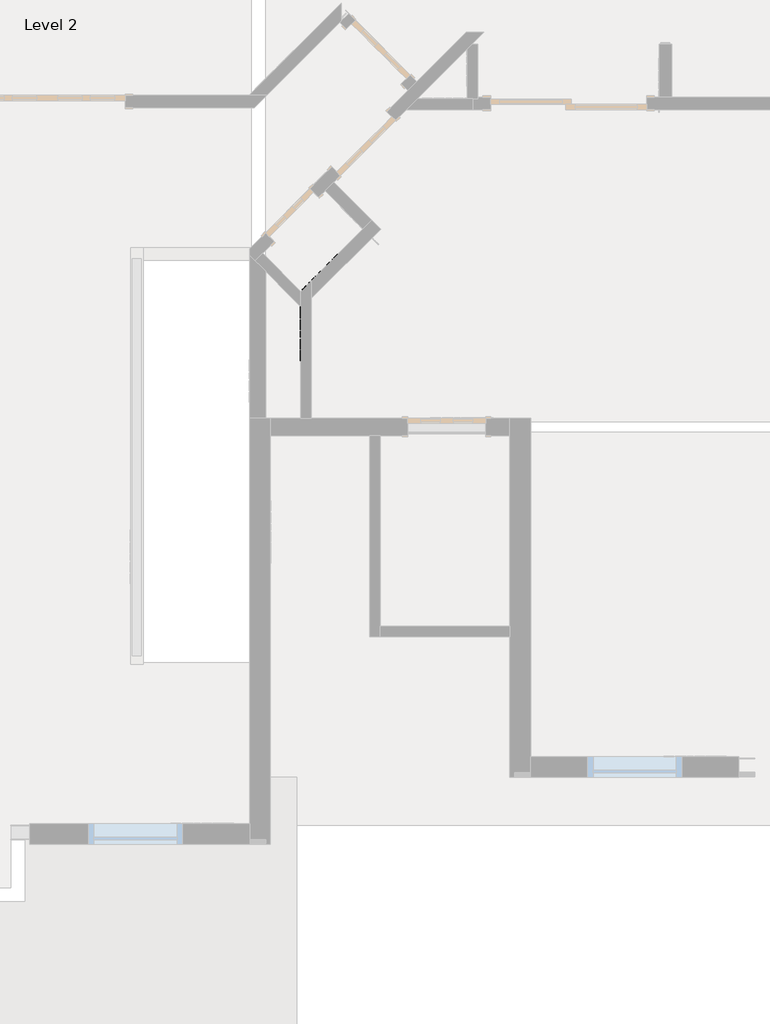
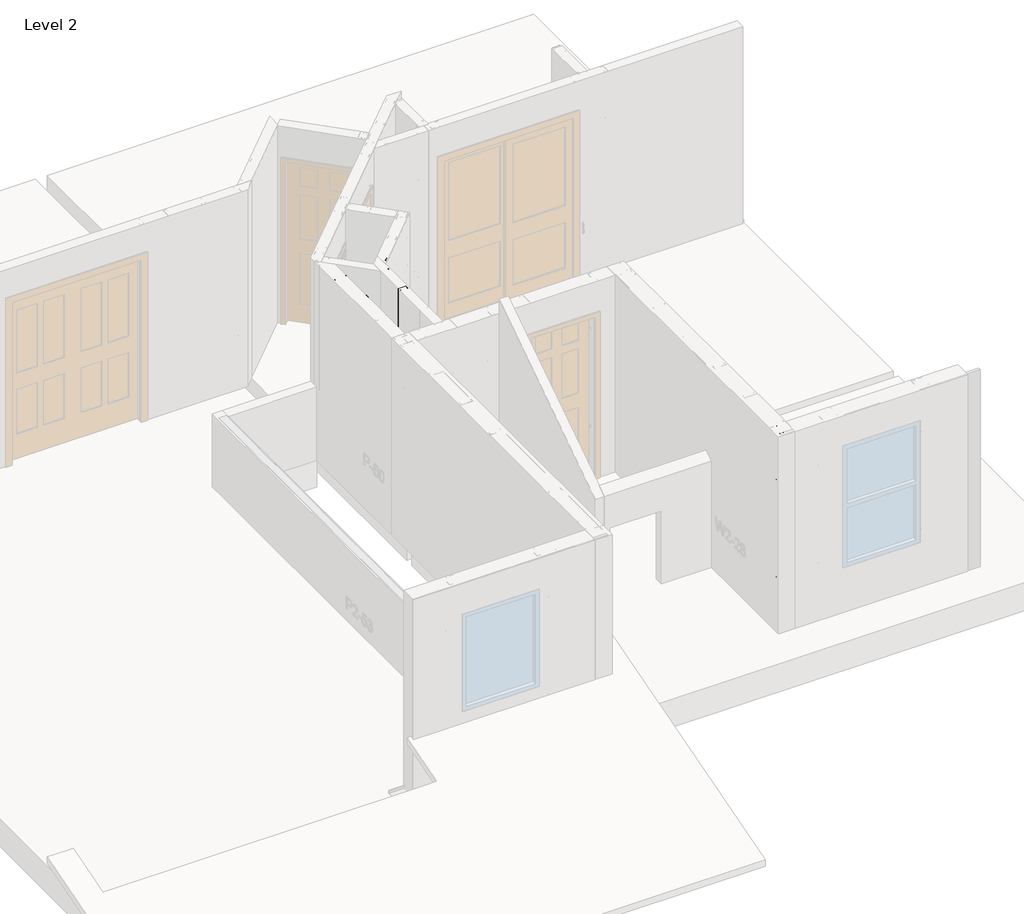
# One storey, part 18 of 46: 6 columns, 2 fasteners, 1 beam.
"""IFC4 building model written with IfcOpenShell, lengths in millimetres."""

from ifc_helpers import new_model, si_unit, point, frame, origin, place, context, project, spatial, circle_curve, ellipse_curve, trimmed, transform, mapped, element, save
from ifc_brep_helpers import plane_surface, extruded_surface, advanced_brep
from components import beam_350nf150_33_eeb0c6a2, panellabel_10638fd7, panellabel_e923d0c2

model = new_model("IFC4")

# Units and contexts
model_context = context("Model", 3, world=origin())
ifc_project = project(units=[si_unit("LENGTHUNIT", "METRE", prefix="MILLI")], contexts=[model_context])

# Site, building, storey
site = spatial("IfcSite", under=ifc_project)
building = spatial("IfcBuilding", under=site)
storey = spatial("IfcBuildingStorey", under=building, Name="Level 2", Elevation=3060.7)

# Beam
placement = place(None, origin())
beam_350nf150_33_shape = beam_350nf150_33_eeb0c6a2(model_context)
element("IfcBeam", 1, ObjectType="BIMSF-SSMA-S : 350NF150-33", at=placement, inside=storey, context=model_context, shape_type="MappedRepresentation", body=[
    mapped(beam_350nf150_33_shape, transform((-8576.5652285, 7078.7104904, 3076.575), x_axis=(0.0, -1.0000000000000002, 0.0), y_axis=(0.0, 0.0, -1.0000000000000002), z_axis=(1.0000000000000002, 0.0, 0.0))),
])

# Columns
element("IfcColumn", 2, ObjectType="BIMSF-SSMA-S-Column : 350NF150-33", at=placement, inside=storey, context=model_context, shape_type="AdvancedBrep", body=[
    advanced_brep(
    [(-8621.0152285, 7658.0687599, 3061.5929687), (-8532.1152285, 7658.0687599, 3061.5929687), (-8532.1152285, 7619.9687599, 3061.5929687), (-8537.7727442, 7619.9687599, 3061.5929687), (-8537.7727442, 7620.8510757, 3061.5929687), (-8532.9975442, 7620.8510757, 3061.5929687), (-8532.9975442, 7657.1864441, 3061.5929687), (-8620.1329127, 7657.1864441, 3061.5929687), (-8620.1329127, 7620.8510757, 3061.5929687), (-8615.3577127, 7620.8510757, 3061.5929687), (-8615.3577127, 7619.9687599, 3061.5929687), (-8621.0152285, 7619.9687599, 3061.5929687), (-8621.0152285, 7658.0687599, 5523.6070313), (-8532.1152285, 7658.0687599, 5523.6070313), (-8563.8652285, 7658.0687599, 3671.1929688), (-8589.2652285, 7658.0687599, 3671.1929688), (-8563.8652285, 7658.0687599, 4890.3929687), (-8589.2652285, 7658.0687599, 4890.3929687), (-8532.1152285, 7619.9687599, 5523.6070313), (-8537.7727442, 7619.9687599, 5523.6070313), (-8537.7727442, 7620.8510757, 5523.6070313), (-8532.9975442, 7620.8510757, 5523.6070313), (-8532.9975442, 7657.1864441, 5523.6070313), (-8620.1329127, 7657.1864441, 5523.6070313), (-8589.2652285, 7657.1864441, 3671.1929688), (-8563.8652285, 7657.1864441, 3671.1929688), (-8589.2652285, 7657.1864441, 4890.3929687), (-8563.8652285, 7657.1864441, 4890.3929687), (-8620.1329127, 7620.8510757, 5523.6070313), (-8615.3577127, 7620.8510757, 5523.6070313), (-8615.3577127, 7619.9687599, 5523.6070313), (-8621.0152285, 7619.9687599, 5523.6070313)],
    [
        (0, 1),
        (1, 2),
        (2, 3),
        (3, 4),
        (4, 5),
        (5, 6),
        (6, 7),
        (7, 8),
        (8, 9),
        (9, 10),
        (10, 11),
        (11, 0),
        (0, 12),
        (12, 13),
        (13, 1),
        (14, 15, circle_curve(frame((-8576.5652285, 7658.0687599, 3671.1929688), z_axis=(0.0, -1.0, 0.0), x_axis=(1.0, 0.0, 0.0)), 12.7)),
        (15, 14, circle_curve(frame((-8576.5652285, 7658.0687599, 3671.1929687), z_axis=(0.0, -1.0, 0.0), x_axis=(1.0, 0.0, 0.0)), 12.7)),
        (16, 17, circle_curve(frame((-8576.5652285, 7658.0687599, 4890.3929687), z_axis=(0.0, -1.0, 0.0), x_axis=(1.0, 0.0, 0.0)), 12.7)),
        (17, 16, circle_curve(frame((-8576.5652285, 7658.0687599, 4890.3929687), z_axis=(0.0, -1.0, 0.0), x_axis=(1.0, 0.0, 0.0)), 12.7)),
        (13, 18),
        (18, 2),
        (18, 19),
        (19, 3),
        (19, 20),
        (20, 4),
        (20, 21),
        (21, 5),
        (21, 22),
        (22, 6),
        (22, 23),
        (23, 7),
        (24, 25, circle_curve(frame((-8576.5652285, 7657.1864441, 3671.1929688), z_axis=(0.0, 1.0, 0.0), x_axis=(1.0, 0.0, 0.0)), 12.7)),
        (25, 24, circle_curve(frame((-8576.5652285, 7657.1864441, 3671.1929688), z_axis=(0.0, 1.0, 0.0), x_axis=(1.0, 0.0, 0.0)), 12.7)),
        (26, 27, circle_curve(frame((-8576.5652285, 7657.1864441, 4890.3929687), z_axis=(0.0, 1.0, 0.0), x_axis=(1.0, 0.0, 0.0)), 12.7)),
        (27, 26, circle_curve(frame((-8576.5652285, 7657.1864441, 4890.3929687), z_axis=(0.0, 1.0, 0.0), x_axis=(1.0, 0.0, 0.0)), 12.7)),
        (23, 28),
        (28, 8),
        (28, 29),
        (29, 9),
        (29, 30),
        (30, 10),
        (30, 31),
        (31, 11),
        (31, 12),
        (24, 15),
        (14, 25),
        (26, 17),
        (16, 27),
    ],
    [
        plane_surface(frame((-8621.0152285, 7658.0687599, 3061.5929687), z_axis=(0.0, 0.0, -1.0), x_axis=(0.0, 1.0, 0.0))),
        plane_surface(frame((-8532.1152285, 7658.0687599, 5523.6070313), z_axis=(0.0, 1.0, 0.0), x_axis=(0.0, 0.0, -1.0))),
        plane_surface(frame((-8532.1152285, 7619.9687599, 5523.6070313), z_axis=(1.0, 0.0, 0.0), x_axis=(0.0, 0.0, -1.0))),
        plane_surface(frame((-8537.7727442, 7619.9687599, 5523.6070313), z_axis=(0.0, -1.0, 0.0), x_axis=(0.0, 0.0, -1.0))),
        plane_surface(frame((-8537.7727442, 7620.8510757, 5523.6070313), z_axis=(-1.0, 0.0, 0.0), x_axis=(0.0, 0.0, -1.0))),
        plane_surface(frame((-8532.9975442, 7620.8510757, 5523.6070313), z_axis=(0.0, 1.0, 0.0), x_axis=(0.0, 0.0, -1.0))),
        plane_surface(frame((-8532.9975442, 7657.1864441, 5523.6070313), z_axis=(-1.0, 0.0, 0.0), x_axis=(0.0, 0.0, -1.0))),
        plane_surface(frame((-8620.1329127, 7657.1864441, 5523.6070313), z_axis=(0.0, -1.0, 0.0), x_axis=(0.0, 0.0, -1.0))),
        plane_surface(frame((-8620.1329127, 7620.8510757, 5523.6070313), z_axis=(1.0, 0.0, 0.0), x_axis=(0.0, 0.0, -1.0))),
        plane_surface(frame((-8615.3577127, 7620.8510757, 5523.6070313), z_axis=(0.0, 1.0, 0.0), x_axis=(0.0, 0.0, -1.0))),
        plane_surface(frame((-8615.3577127, 7619.9687599, 5523.6070313), z_axis=(1.0, 0.0, 0.0), x_axis=(0.0, 0.0, -1.0))),
        plane_surface(frame((-8621.0152285, 7619.9687599, 5523.6070313), z_axis=(0.0, -1.0, 0.0), x_axis=(0.0, 0.0, -1.0))),
        plane_surface(frame((-8621.0152285, 7658.0687599, 5523.6070313), z_axis=(-1.0, 0.0, 0.0), x_axis=(0.0, 0.0, -1.0))),
        plane_surface(frame((-8621.0152285, 7658.0687599, 5523.6070313), z_axis=(0.0, 0.0, 1.0), x_axis=(0.0, -1.0, 0.0))),
        extruded_surface(trimmed(ellipse_curve(frame((-8576.5652285, 5177.0046974, 3671.1929688), z_axis=(0.0, 1.0, 0.0), x_axis=(1.0, 0.0, 0.0)), 12.7, 12.7), [point((-8589.2652285, 5177.0046974, 3671.1929688))], [point((-8563.8652285, 5177.0046974, 3671.1929688))], True, "CARTESIAN"), (0.0, -4924.028125, 0.0), 4924.028125),
        extruded_surface(trimmed(ellipse_curve(frame((-8576.5652285, 5177.0046974, 3671.1929688), z_axis=(0.0, 1.0, 0.0), x_axis=(1.0, 0.0, 0.0)), 12.7, 12.7), [point((-8563.8652285, 5177.0046974, 3671.1929688))], [point((-8589.2652285, 5177.0046974, 3671.1929688))], True, "CARTESIAN"), (0.0, -4924.028125, 0.0), 4924.028125),
        extruded_surface(trimmed(ellipse_curve(frame((-8576.5652285, 5177.0046974, 4890.3929687), z_axis=(0.0, 1.0, 0.0), x_axis=(1.0, 0.0, 0.0)), 12.7, 12.7), [point((-8589.2652285, 5177.0046974, 4890.3929687))], [point((-8563.8652285, 5177.0046974, 4890.3929687))], True, "CARTESIAN"), (0.0, -4924.028125, 0.0), 4924.028125),
        extruded_surface(trimmed(ellipse_curve(frame((-8576.5652285, 5177.0046974, 4890.3929687), z_axis=(0.0, 1.0, 0.0), x_axis=(1.0, 0.0, 0.0)), 12.7, 12.7), [point((-8563.8652285, 5177.0046974, 4890.3929687))], [point((-8589.2652285, 5177.0046974, 4890.3929687))], True, "CARTESIAN"), (0.0, -4924.028125, 0.0), 4924.028125),
    ],
    [
        (0, [[1, 2, 3, 4, 5, 6, 7, 8, 9, 10, 11, 12]]),
        (1, [[-1, 13, 14, 15], [16, 17], [18, 19]]),
        (2, [[-2, -15, 20, 21]]),
        (3, [[-3, -21, 22, 23]]),
        (4, [[-4, -23, 24, 25]]),
        (5, [[-5, -25, 26, 27]]),
        (6, [[-6, -27, 28, 29]]),
        (7, [[-7, -29, 30, 31], [32, 33], [34, 35]]),
        (8, [[-8, -31, 36, 37]]),
        (9, [[-9, -37, 38, 39]]),
        (10, [[-10, -39, 40, 41]]),
        (11, [[-11, -41, 42, 43]]),
        (12, [[-12, -43, 44, -13]]),
        (13, [[-14, -44, -42, -40, -38, -36, -30, -28, -26, -24, -22, -20]]),
        (14, [[45, -16, 46, -32]]),
        (15, [[-45, -33, -46, -17]]),
        (16, [[47, -18, 48, -34]]),
        (17, [[-47, -35, -48, -19]]),
    ],
),
])
element("IfcColumn", 3, ObjectType="BIMSF-SSMA-S-Column : 350NF150-33", at=placement, inside=storey, context=model_context, shape_type="AdvancedBrep", body=[
    advanced_brep(
    [(-8621.0152285, 7270.7187599, 3061.5929687), (-8532.1152285, 7270.7187599, 3061.5929687), (-8532.1152285, 7232.6187599, 3061.5929687), (-8537.7727442, 7232.6187599, 3061.5929687), (-8537.7727442, 7233.5010757, 3061.5929687), (-8532.9975442, 7233.5010757, 3061.5929687), (-8532.9975442, 7269.8364441, 3061.5929687), (-8620.1329127, 7269.8364441, 3061.5929687), (-8620.1329127, 7233.5010757, 3061.5929687), (-8615.3577127, 7233.5010757, 3061.5929687), (-8615.3577127, 7232.6187599, 3061.5929687), (-8621.0152285, 7232.6187599, 3061.5929687), (-8621.0152285, 7270.7187599, 5523.6070313), (-8532.1152285, 7270.7187599, 5523.6070313), (-8563.8652285, 7270.7187599, 3671.1929688), (-8589.2652285, 7270.7187599, 3671.1929687), (-8563.8652285, 7270.7187599, 4890.3929687), (-8589.2652285, 7270.7187599, 4890.3929687), (-8532.1152285, 7232.6187599, 5523.6070313), (-8537.7727442, 7232.6187599, 5523.6070313), (-8537.7727442, 7233.5010757, 5523.6070313), (-8532.9975442, 7233.5010757, 5523.6070313), (-8532.9975442, 7269.8364441, 5523.6070313), (-8620.1329127, 7269.8364441, 5523.6070313), (-8589.2652285, 7269.8364441, 3671.1929688), (-8563.8652285, 7269.8364441, 3671.1929688), (-8589.2652285, 7269.8364441, 4890.3929687), (-8563.8652285, 7269.8364441, 4890.3929687), (-8620.1329127, 7233.5010757, 5523.6070313), (-8615.3577127, 7233.5010757, 5523.6070313), (-8615.3577127, 7232.6187599, 5523.6070313), (-8621.0152285, 7232.6187599, 5523.6070313)],
    [
        (0, 1),
        (1, 2),
        (2, 3),
        (3, 4),
        (4, 5),
        (5, 6),
        (6, 7),
        (7, 8),
        (8, 9),
        (9, 10),
        (10, 11),
        (11, 0),
        (0, 12),
        (12, 13),
        (13, 1),
        (14, 15, circle_curve(frame((-8576.5652285, 7270.7187599, 3671.1929687), z_axis=(0.0, -1.0, 0.0), x_axis=(1.0, 0.0, 0.0)), 12.7)),
        (15, 14, circle_curve(frame((-8576.5652285, 7270.7187599, 3671.1929687), z_axis=(0.0, -1.0, 0.0), x_axis=(1.0, 0.0, 0.0)), 12.7)),
        (16, 17, circle_curve(frame((-8576.5652285, 7270.7187599, 4890.3929687), z_axis=(0.0, -1.0, 0.0), x_axis=(1.0, 0.0, 0.0)), 12.7)),
        (17, 16, circle_curve(frame((-8576.5652285, 7270.7187599, 4890.3929687), z_axis=(0.0, -1.0, 0.0), x_axis=(1.0, 0.0, 0.0)), 12.7)),
        (13, 18),
        (18, 2),
        (18, 19),
        (19, 3),
        (19, 20),
        (20, 4),
        (20, 21),
        (21, 5),
        (21, 22),
        (22, 6),
        (22, 23),
        (23, 7),
        (24, 25, circle_curve(frame((-8576.5652285, 7269.8364441, 3671.1929687), z_axis=(0.0, 1.0, 0.0), x_axis=(1.0, 0.0, 0.0)), 12.7)),
        (25, 24, circle_curve(frame((-8576.5652285, 7269.8364441, 3671.1929687), z_axis=(0.0, 1.0, 0.0), x_axis=(1.0, 0.0, 0.0)), 12.7)),
        (26, 27, circle_curve(frame((-8576.5652285, 7269.8364441, 4890.3929687), z_axis=(0.0, 1.0, 0.0), x_axis=(1.0, 0.0, 0.0)), 12.7)),
        (27, 26, circle_curve(frame((-8576.5652285, 7269.8364441, 4890.3929687), z_axis=(0.0, 1.0, 0.0), x_axis=(1.0, 0.0, 0.0)), 12.7)),
        (23, 28),
        (28, 8),
        (28, 29),
        (29, 9),
        (29, 30),
        (30, 10),
        (30, 31),
        (31, 11),
        (31, 12),
        (24, 15),
        (14, 25),
        (26, 17),
        (16, 27),
    ],
    [
        plane_surface(frame((-8621.0152285, 7270.7187599, 3061.5929687), z_axis=(0.0, 0.0, -1.0), x_axis=(0.0, 1.0, 0.0))),
        plane_surface(frame((-8532.1152285, 7270.7187599, 5523.6070313), z_axis=(0.0, 1.0, 0.0), x_axis=(0.0, 0.0, -1.0))),
        plane_surface(frame((-8532.1152285, 7232.6187599, 5523.6070313), z_axis=(1.0, 0.0, 0.0), x_axis=(0.0, 0.0, -1.0))),
        plane_surface(frame((-8537.7727442, 7232.6187599, 5523.6070313), z_axis=(0.0, -1.0, 0.0), x_axis=(0.0, 0.0, -1.0))),
        plane_surface(frame((-8537.7727442, 7233.5010757, 5523.6070313), z_axis=(-1.0, 0.0, 0.0), x_axis=(0.0, 0.0, -1.0))),
        plane_surface(frame((-8532.9975442, 7233.5010757, 5523.6070313), z_axis=(0.0, 1.0, 0.0), x_axis=(0.0, 0.0, -1.0))),
        plane_surface(frame((-8532.9975442, 7269.8364441, 5523.6070313), z_axis=(-1.0, 0.0, 0.0), x_axis=(0.0, 0.0, -1.0))),
        plane_surface(frame((-8620.1329127, 7269.8364441, 5523.6070313), z_axis=(0.0, -1.0, 0.0), x_axis=(0.0, 0.0, -1.0))),
        plane_surface(frame((-8620.1329127, 7233.5010757, 5523.6070313), z_axis=(1.0, 0.0, 0.0), x_axis=(0.0, 0.0, -1.0))),
        plane_surface(frame((-8615.3577127, 7233.5010757, 5523.6070313), z_axis=(0.0, 1.0, 0.0), x_axis=(0.0, 0.0, -1.0))),
        plane_surface(frame((-8615.3577127, 7232.6187599, 5523.6070313), z_axis=(1.0, 0.0, 0.0), x_axis=(0.0, 0.0, -1.0))),
        plane_surface(frame((-8621.0152285, 7232.6187599, 5523.6070313), z_axis=(0.0, -1.0, 0.0), x_axis=(0.0, 0.0, -1.0))),
        plane_surface(frame((-8621.0152285, 7270.7187599, 5523.6070313), z_axis=(-1.0, 0.0, 0.0), x_axis=(0.0, 0.0, -1.0))),
        plane_surface(frame((-8621.0152285, 7270.7187599, 5523.6070313), z_axis=(0.0, 0.0, 1.0), x_axis=(0.0, -1.0, 0.0))),
        extruded_surface(trimmed(ellipse_curve(frame((-8576.5652285, 4789.6546974, 3671.1929688), z_axis=(0.0, 1.0, 0.0), x_axis=(1.0, 0.0, 0.0)), 12.7, 12.7), [point((-8589.2652285, 4789.6546974, 3671.1929688))], [point((-8563.8652285, 4789.6546974, 3671.1929688))], True, "CARTESIAN"), (0.0, -4924.028125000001, 0.0), 4924.028125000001),
        extruded_surface(trimmed(ellipse_curve(frame((-8576.5652285, 4789.6546974, 3671.1929688), z_axis=(0.0, 1.0, 0.0), x_axis=(1.0, 0.0, 0.0)), 12.7, 12.7), [point((-8563.8652285, 4789.6546974, 3671.1929688))], [point((-8589.2652285, 4789.6546974, 3671.1929688))], True, "CARTESIAN"), (0.0, -4924.028125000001, 0.0), 4924.028125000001),
        extruded_surface(trimmed(ellipse_curve(frame((-8576.5652285, 4789.6546974, 4890.3929687), z_axis=(0.0, 1.0, 0.0), x_axis=(1.0, 0.0, 0.0)), 12.7, 12.7), [point((-8589.2652285, 4789.6546974, 4890.3929687))], [point((-8563.8652285, 4789.6546974, 4890.3929687))], True, "CARTESIAN"), (0.0, -4924.028125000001, 0.0), 4924.028125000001),
        extruded_surface(trimmed(ellipse_curve(frame((-8576.5652285, 4789.6546974, 4890.3929687), z_axis=(0.0, 1.0, 0.0), x_axis=(1.0, 0.0, 0.0)), 12.7, 12.7), [point((-8563.8652285, 4789.6546974, 4890.3929687))], [point((-8589.2652285, 4789.6546974, 4890.3929687))], True, "CARTESIAN"), (0.0, -4924.028125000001, 0.0), 4924.028125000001),
    ],
    [
        (0, [[1, 2, 3, 4, 5, 6, 7, 8, 9, 10, 11, 12]]),
        (1, [[-1, 13, 14, 15], [16, 17], [18, 19]]),
        (2, [[-2, -15, 20, 21]]),
        (3, [[-3, -21, 22, 23]]),
        (4, [[-4, -23, 24, 25]]),
        (5, [[-5, -25, 26, 27]]),
        (6, [[-6, -27, 28, 29]]),
        (7, [[-7, -29, 30, 31], [32, 33], [34, 35]]),
        (8, [[-8, -31, 36, 37]]),
        (9, [[-9, -37, 38, 39]]),
        (10, [[-10, -39, 40, 41]]),
        (11, [[-11, -41, 42, 43]]),
        (12, [[-12, -43, 44, -13]]),
        (13, [[-14, -44, -42, -40, -38, -36, -30, -28, -26, -24, -22, -20]]),
        (14, [[45, -16, 46, -32]]),
        (15, [[-45, -33, -46, -17]]),
        (16, [[47, -18, 48, -34]]),
        (17, [[-47, -35, -48, -19]]),
    ],
),
])
element("IfcColumn", 4, ObjectType="BIMSF-SSMA-S-Column : 350NF150-33", at=placement, inside=storey, context=model_context, shape_type="AdvancedBrep", body=[
    advanced_brep(
    [(-8477.1413692, 7771.6245763, 3061.5929687), (-8540.0031621, 7834.4863691, 3061.5929687), (-8513.0623937, 7861.4271375, 3061.5929687), (-8509.0619259, 7857.4266697, 3061.5929687), (-8509.6858174, 7856.8027782, 3061.5929687), (-8513.0623937, 7860.1793546, 3061.5929687), (-8538.7553791, 7834.4863691, 3061.5929687), (-8477.1413692, 7772.8723592, 3061.5929687), (-8451.4483838, 7798.5653447, 3061.5929687), (-8454.8249601, 7801.941921, 3061.5929687), (-8454.2010686, 7802.5658124, 3061.5929687), (-8450.2006009, 7798.5653447, 3061.5929687), (-8477.1413692, 7771.6245763, 5523.6070313), (-8540.0031621, 7834.4863691, 5523.6070313), (-8517.5525218, 7812.0357288, 3671.1929688), (-8499.5920095, 7794.0752166, 3671.1929688), (-8517.5525218, 7812.0357288, 4890.3929688), (-8499.5920095, 7794.0752166, 4890.3929687), (-8513.0623937, 7861.4271375, 5523.6070313), (-8509.0619259, 7857.4266697, 5523.6070313), (-8509.6858174, 7856.8027782, 5523.6070313), (-8513.0623937, 7860.1793546, 5523.6070313), (-8538.7553791, 7834.4863691, 5523.6070313), (-8477.1413692, 7772.8723592, 5523.6070313), (-8498.968118, 7794.6991081, 3671.1929688), (-8516.9286303, 7812.6596203, 3671.1929688), (-8498.968118, 7794.6991081, 4890.3929687), (-8516.9286303, 7812.6596203, 4890.3929688), (-8451.4483838, 7798.5653447, 5523.6070313), (-8454.8249601, 7801.941921, 5523.6070313), (-8454.2010686, 7802.5658124, 5523.6070313), (-8450.2006009, 7798.5653447, 5523.6070313)],
    [
        (0, 1),
        (1, 2),
        (2, 3),
        (3, 4),
        (4, 5),
        (5, 6),
        (6, 7),
        (7, 8),
        (8, 9),
        (9, 10),
        (10, 11),
        (11, 0),
        (0, 12),
        (12, 13),
        (13, 1),
        (14, 15, circle_curve(frame((-8508.5722656, 7803.0554727, 3671.1929688), z_axis=(0.7071067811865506, 0.7071067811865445, 0.0), x_axis=(-0.7071067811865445, 0.7071067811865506, 0.0)), 12.7)),
        (15, 14, circle_curve(frame((-8508.5722656, 7803.0554727, 3671.1929688), z_axis=(0.7071067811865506, 0.7071067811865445, 0.0), x_axis=(-0.7071067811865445, 0.7071067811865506, 0.0)), 12.7)),
        (16, 17, circle_curve(frame((-8508.5722656, 7803.0554727, 4890.3929688), z_axis=(0.7071067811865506, 0.7071067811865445, 0.0), x_axis=(-0.7071067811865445, 0.7071067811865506, 0.0)), 12.7)),
        (17, 16, circle_curve(frame((-8508.5722656, 7803.0554727, 4890.3929687), z_axis=(0.7071067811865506, 0.7071067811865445, 0.0), x_axis=(-0.7071067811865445, 0.7071067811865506, 0.0)), 12.7)),
        (13, 18),
        (18, 2),
        (18, 19),
        (19, 3),
        (19, 20),
        (20, 4),
        (20, 21),
        (21, 5),
        (21, 22),
        (22, 6),
        (22, 23),
        (23, 7),
        (24, 25, circle_curve(frame((-8507.9483742, 7803.6793642, 3671.1929688), z_axis=(-0.7071067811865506, -0.7071067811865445, 0.0), x_axis=(-0.7071067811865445, 0.7071067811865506, 0.0)), 12.7)),
        (25, 24, circle_curve(frame((-8507.9483742, 7803.6793642, 3671.1929687), z_axis=(-0.7071067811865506, -0.7071067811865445, 0.0), x_axis=(-0.7071067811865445, 0.7071067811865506, 0.0)), 12.7)),
        (26, 27, circle_curve(frame((-8507.9483742, 7803.6793642, 4890.3929687), z_axis=(-0.7071067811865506, -0.7071067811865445, 0.0), x_axis=(-0.7071067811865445, 0.7071067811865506, 0.0)), 12.7)),
        (27, 26, circle_curve(frame((-8507.9483742, 7803.6793642, 4890.3929687), z_axis=(-0.7071067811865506, -0.7071067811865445, 0.0), x_axis=(-0.7071067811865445, 0.7071067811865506, 0.0)), 12.7)),
        (23, 28),
        (28, 8),
        (28, 29),
        (29, 9),
        (29, 30),
        (30, 10),
        (30, 31),
        (31, 11),
        (31, 12),
        (24, 15),
        (14, 25),
        (26, 17),
        (16, 27),
    ],
    [
        plane_surface(frame((-8477.1413692, 7771.6245763, 3061.5929687), z_axis=(0.0, 0.0, -1.0), x_axis=(-0.7071067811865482, -0.7071067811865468, 0.0))),
        plane_surface(frame((-8540.0031621, 7834.4863691, 5523.6070313), z_axis=(-0.7071067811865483, -0.7071067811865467, 0.0), x_axis=(0.0, 0.0, -1.0))),
        plane_surface(frame((-8513.0623937, 7861.4271375, 5523.6070313), z_axis=(-0.7071067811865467, 0.7071067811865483, 0.0), x_axis=(0.0, 0.0, -1.0))),
        plane_surface(frame((-8509.0619259, 7857.4266697, 5523.6070313), z_axis=(0.7071067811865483, 0.7071067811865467, 0.0), x_axis=(0.0, 0.0, -1.0))),
        plane_surface(frame((-8509.6858174, 7856.8027782, 5523.6070313), z_axis=(0.7071067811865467, -0.7071067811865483, 0.0), x_axis=(0.0, 0.0, -1.0))),
        plane_surface(frame((-8513.0623937, 7860.1793546, 5523.6070313), z_axis=(-0.7071067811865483, -0.7071067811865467, 0.0), x_axis=(0.0, 0.0, -1.0))),
        plane_surface(frame((-8538.7553791, 7834.4863691, 5523.6070313), z_axis=(0.7071067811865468, -0.7071067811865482, 0.0), x_axis=(0.0, 0.0, -1.0))),
        plane_surface(frame((-8477.1413692, 7772.8723592, 5523.6070313), z_axis=(0.7071067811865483, 0.7071067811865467, 0.0), x_axis=(0.0, 0.0, -1.0))),
        plane_surface(frame((-8451.4483838, 7798.5653447, 5523.6070313), z_axis=(-0.7071067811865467, 0.7071067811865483, 0.0), x_axis=(0.0, 0.0, -1.0))),
        plane_surface(frame((-8454.8249601, 7801.941921, 5523.6070313), z_axis=(-0.7071067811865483, -0.7071067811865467, 0.0), x_axis=(0.0, 0.0, -1.0))),
        plane_surface(frame((-8454.2010686, 7802.5658124, 5523.6070313), z_axis=(-0.7071067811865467, 0.7071067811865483, 0.0), x_axis=(0.0, 0.0, -1.0))),
        plane_surface(frame((-8450.2006009, 7798.5653447, 5523.6070313), z_axis=(0.7071067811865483, 0.7071067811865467, 0.0), x_axis=(0.0, 0.0, -1.0))),
        plane_surface(frame((-8477.1413692, 7771.6245763, 5523.6070313), z_axis=(0.7071067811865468, -0.7071067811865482, 0.0), x_axis=(0.0, 0.0, -1.0))),
        plane_surface(frame((-8477.1413692, 7771.6245763, 5523.6070313), z_axis=(0.0, 0.0, 1.0), x_axis=(0.7071067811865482, 0.7071067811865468, 0.0))),
        extruded_surface(trimmed(ellipse_curve(frame((-6754.1950425, 9557.4326959, 3671.1929688), z_axis=(-0.7071067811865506, -0.7071067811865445, 0.0), x_axis=(-0.7071067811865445, 0.7071067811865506, 0.0)), 12.7, 12.7), [point((-6745.2147864, 9548.4524397, 3671.1929688))], [point((-6763.1752986, 9566.412952, 3671.1929688))], True, "CARTESIAN"), (3481.8136780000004, 3481.8136778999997, 0.0), 4924.028125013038),
        extruded_surface(trimmed(ellipse_curve(frame((-6754.1950425, 9557.4326959, 3671.1929688), z_axis=(-0.7071067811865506, -0.7071067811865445, 0.0), x_axis=(-0.7071067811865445, 0.7071067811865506, 0.0)), 12.7, 12.7), [point((-6763.1752986, 9566.412952, 3671.1929688))], [point((-6745.2147864, 9548.4524397, 3671.1929688))], True, "CARTESIAN"), (3481.8136780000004, 3481.8136778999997, 0.0), 4924.028125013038),
        extruded_surface(trimmed(ellipse_curve(frame((-6754.1950425, 9557.4326959, 4890.3929687), z_axis=(-0.7071067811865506, -0.7071067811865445, 0.0), x_axis=(-0.7071067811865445, 0.7071067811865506, 0.0)), 12.7, 12.7), [point((-6745.2147864, 9548.4524397, 4890.3929687))], [point((-6763.1752986, 9566.412952, 4890.3929687))], True, "CARTESIAN"), (3481.8136780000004, 3481.8136778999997, 0.0), 4924.028125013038),
        extruded_surface(trimmed(ellipse_curve(frame((-6754.1950425, 9557.4326959, 4890.3929687), z_axis=(-0.7071067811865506, -0.7071067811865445, 0.0), x_axis=(-0.7071067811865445, 0.7071067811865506, 0.0)), 12.7, 12.7), [point((-6763.1752986, 9566.412952, 4890.3929687))], [point((-6745.2147864, 9548.4524397, 4890.3929687))], True, "CARTESIAN"), (3481.8136780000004, 3481.8136778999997, 0.0), 4924.028125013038),
    ],
    [
        (0, [[1, 2, 3, 4, 5, 6, 7, 8, 9, 10, 11, 12]]),
        (1, [[-1, 13, 14, 15], [16, 17], [18, 19]]),
        (2, [[-2, -15, 20, 21]]),
        (3, [[-3, -21, 22, 23]]),
        (4, [[-4, -23, 24, 25]]),
        (5, [[-5, -25, 26, 27]]),
        (6, [[-6, -27, 28, 29]]),
        (7, [[-7, -29, 30, 31], [32, 33], [34, 35]]),
        (8, [[-8, -31, 36, 37]]),
        (9, [[-9, -37, 38, 39]]),
        (10, [[-10, -39, 40, 41]]),
        (11, [[-11, -41, 42, 43]]),
        (12, [[-12, -43, 44, -13]]),
        (13, [[-14, -44, -42, -40, -38, -36, -30, -28, -26, -24, -22, -20]]),
        (14, [[45, -16, 46, -32]]),
        (15, [[-45, -33, -46, -17]]),
        (16, [[47, -18, 48, -34]]),
        (17, [[-47, -35, -48, -19]]),
    ],
),
])
element("IfcColumn", 5, ObjectType="BIMSF-SSMA-S-Column : 550NF150-33", at=placement, inside=storey, context=model_context, shape_type="AdvancedBrep", body=[
    advanced_brep(
    [(-8964.7413349, 7293.102221, 3061.5929687), (-9104.4413349, 7293.102221, 3061.5929687), (-9104.4413349, 7331.202221, 3061.5929687), (-9098.7838191, 7331.202221, 3061.5929687), (-9098.7838191, 7330.3199052, 3061.5929687), (-9103.5590191, 7330.3199052, 3061.5929687), (-9103.5590191, 7293.9845367, 3061.5929687), (-8965.6236507, 7293.9845367, 3061.5929687), (-8965.6236507, 7330.3199052, 3061.5929687), (-8970.3988507, 7330.3199052, 3061.5929687), (-8970.3988507, 7331.202221, 3061.5929687), (-8964.7413349, 7331.202221, 3061.5929687), (-8964.7413349, 7293.102221, 5523.6070313), (-9104.4413349, 7293.102221, 5523.6070313), (-9047.2913349, 7293.102221, 3671.1929687), (-9021.8913349, 7293.102221, 3671.1929687), (-9047.2913349, 7293.102221, 4890.3929687), (-9021.8913349, 7293.102221, 4890.3929687), (-9104.4413349, 7331.202221, 5523.6070313), (-9098.7838191, 7331.202221, 5523.6070313), (-9098.7838191, 7330.3199052, 5523.6070313), (-9103.5590191, 7330.3199052, 5523.6070313), (-9103.5590191, 7293.9845367, 5523.6070313), (-8965.6236507, 7293.9845367, 5523.6070313), (-9021.8913349, 7293.9845367, 3671.1929688), (-9047.2913349, 7293.9845367, 3671.1929688), (-9021.8913349, 7293.9845367, 4890.3929687), (-9047.2913349, 7293.9845367, 4890.3929687), (-8965.6236507, 7330.3199052, 5523.6070313), (-8970.3988507, 7330.3199052, 5523.6070313), (-8970.3988507, 7331.202221, 5523.6070313), (-8964.7413349, 7331.202221, 5523.6070313)],
    [
        (0, 1),
        (1, 2),
        (2, 3),
        (3, 4),
        (4, 5),
        (5, 6),
        (6, 7),
        (7, 8),
        (8, 9),
        (9, 10),
        (10, 11),
        (11, 0),
        (0, 12),
        (12, 13),
        (13, 1),
        (14, 15, circle_curve(frame((-9034.5913349, 7293.102221, 3671.1929688), z_axis=(0.0, 1.0, 0.0), x_axis=(-1.0, 0.0, 0.0)), 12.7)),
        (15, 14, circle_curve(frame((-9034.5913349, 7293.102221, 3671.1929688), z_axis=(0.0, 1.0, 0.0), x_axis=(-1.0, 0.0, 0.0)), 12.7)),
        (16, 17, circle_curve(frame((-9034.5913349, 7293.102221, 4890.3929687), z_axis=(0.0, 1.0, 0.0), x_axis=(-1.0, 0.0, 0.0)), 12.7)),
        (17, 16, circle_curve(frame((-9034.5913349, 7293.102221, 4890.3929687), z_axis=(0.0, 1.0, 0.0), x_axis=(-1.0, 0.0, 0.0)), 12.7)),
        (13, 18),
        (18, 2),
        (18, 19),
        (19, 3),
        (19, 20),
        (20, 4),
        (20, 21),
        (21, 5),
        (21, 22),
        (22, 6),
        (22, 23),
        (23, 7),
        (24, 25, circle_curve(frame((-9034.5913349, 7293.9845367, 3671.1929687), z_axis=(0.0, -1.0, 0.0), x_axis=(-1.0, 0.0, 0.0)), 12.7)),
        (25, 24, circle_curve(frame((-9034.5913349, 7293.9845367, 3671.1929688), z_axis=(0.0, -1.0, 0.0), x_axis=(-1.0, 0.0, 0.0)), 12.7)),
        (26, 27, circle_curve(frame((-9034.5913349, 7293.9845367, 4890.3929687), z_axis=(0.0, -1.0, 0.0), x_axis=(-1.0, 0.0, 0.0)), 12.7)),
        (27, 26, circle_curve(frame((-9034.5913349, 7293.9845367, 4890.3929687), z_axis=(0.0, -1.0, 0.0), x_axis=(-1.0, 0.0, 0.0)), 12.7)),
        (23, 28),
        (28, 8),
        (28, 29),
        (29, 9),
        (29, 30),
        (30, 10),
        (30, 31),
        (31, 11),
        (31, 12),
        (24, 15),
        (14, 25),
        (26, 17),
        (16, 27),
    ],
    [
        plane_surface(frame((-8964.7413349, 7293.102221, 3061.5929687), z_axis=(0.0, 0.0, -1.0), x_axis=(0.0, -1.0, 0.0))),
        plane_surface(frame((-9104.4413349, 7293.102221, 5523.6070313), z_axis=(0.0, -1.0, 0.0), x_axis=(0.0, 0.0, -1.0))),
        plane_surface(frame((-9104.4413349, 7331.202221, 5523.6070313), z_axis=(-1.0, 0.0, 0.0), x_axis=(0.0, 0.0, -1.0))),
        plane_surface(frame((-9098.7838191, 7331.202221, 5523.6070313), z_axis=(0.0, 1.0, 0.0), x_axis=(0.0, 0.0, -1.0))),
        plane_surface(frame((-9098.7838191, 7330.3199052, 5523.6070313), z_axis=(1.0, 0.0, 0.0), x_axis=(0.0, 0.0, -1.0))),
        plane_surface(frame((-9103.5590191, 7330.3199052, 5523.6070313), z_axis=(0.0, -1.0, 0.0), x_axis=(0.0, 0.0, -1.0))),
        plane_surface(frame((-9103.5590191, 7293.9845367, 5523.6070313), z_axis=(1.0, 0.0, 0.0), x_axis=(0.0, 0.0, -1.0))),
        plane_surface(frame((-8965.6236507, 7293.9845367, 5523.6070313), z_axis=(0.0, 1.0, 0.0), x_axis=(0.0, 0.0, -1.0))),
        plane_surface(frame((-8965.6236507, 7330.3199052, 5523.6070313), z_axis=(-1.0, 0.0, 0.0), x_axis=(0.0, 0.0, -1.0))),
        plane_surface(frame((-8970.3988507, 7330.3199052, 5523.6070313), z_axis=(0.0, -1.0, 0.0), x_axis=(0.0, 0.0, -1.0))),
        plane_surface(frame((-8970.3988507, 7331.202221, 5523.6070313), z_axis=(-1.0, 0.0, 0.0), x_axis=(0.0, 0.0, -1.0))),
        plane_surface(frame((-8964.7413349, 7331.202221, 5523.6070313), z_axis=(0.0, 1.0, 0.0), x_axis=(0.0, 0.0, -1.0))),
        plane_surface(frame((-8964.7413349, 7293.102221, 5523.6070313), z_axis=(1.0, 0.0, 0.0), x_axis=(0.0, 0.0, -1.0))),
        plane_surface(frame((-8964.7413349, 7293.102221, 5523.6070313), z_axis=(0.0, 0.0, 1.0), x_axis=(0.0, 1.0, 0.0))),
        extruded_surface(trimmed(ellipse_curve(frame((-9034.5913349, 9774.1662835, 3671.1929688), z_axis=(0.0, -1.0, 0.0), x_axis=(-1.0, 0.0, 0.0)), 12.7, 12.7), [point((-9021.8913349, 9774.1662835, 3671.1929688))], [point((-9047.2913349, 9774.1662835, 3671.1929688))], True, "CARTESIAN"), (0.0, 4924.028124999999, 0.0), 4924.028124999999),
        extruded_surface(trimmed(ellipse_curve(frame((-9034.5913349, 9774.1662835, 3671.1929688), z_axis=(0.0, -1.0, 0.0), x_axis=(-1.0, 0.0, 0.0)), 12.7, 12.7), [point((-9047.2913349, 9774.1662835, 3671.1929688))], [point((-9021.8913349, 9774.1662835, 3671.1929688))], True, "CARTESIAN"), (0.0, 4924.028124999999, 0.0), 4924.028124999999),
        extruded_surface(trimmed(ellipse_curve(frame((-9034.5913349, 9774.1662835, 4890.3929687), z_axis=(0.0, -1.0, 0.0), x_axis=(-1.0, 0.0, 0.0)), 12.7, 12.7), [point((-9021.8913349, 9774.1662835, 4890.3929687))], [point((-9047.2913349, 9774.1662835, 4890.3929687))], True, "CARTESIAN"), (0.0, 4924.028124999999, 0.0), 4924.028124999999),
        extruded_surface(trimmed(ellipse_curve(frame((-9034.5913349, 9774.1662835, 4890.3929687), z_axis=(0.0, -1.0, 0.0), x_axis=(-1.0, 0.0, 0.0)), 12.7, 12.7), [point((-9047.2913349, 9774.1662835, 4890.3929687))], [point((-9021.8913349, 9774.1662835, 4890.3929687))], True, "CARTESIAN"), (0.0, 4924.028124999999, 0.0), 4924.028124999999),
    ],
    [
        (0, [[1, 2, 3, 4, 5, 6, 7, 8, 9, 10, 11, 12]]),
        (1, [[-1, 13, 14, 15], [16, 17], [18, 19]]),
        (2, [[-2, -15, 20, 21]]),
        (3, [[-3, -21, 22, 23]]),
        (4, [[-4, -23, 24, 25]]),
        (5, [[-5, -25, 26, 27]]),
        (6, [[-6, -27, 28, 29]]),
        (7, [[-7, -29, 30, 31], [32, 33], [34, 35]]),
        (8, [[-8, -31, 36, 37]]),
        (9, [[-9, -37, 38, 39]]),
        (10, [[-10, -39, 40, 41]]),
        (11, [[-11, -41, 42, 43]]),
        (12, [[-12, -43, 44, -13]]),
        (13, [[-14, -44, -42, -40, -38, -36, -30, -28, -26, -24, -22, -20]]),
        (14, [[45, -16, 46, -32]]),
        (15, [[-45, -33, -46, -17]]),
        (16, [[47, -18, 48, -34]]),
        (17, [[-47, -35, -48, -19]]),
    ],
),
])
element("IfcColumn", 6, ObjectType="BIMSF-SSMA-S-Column : 550NF150-33", at=placement, inside=storey, context=model_context, shape_type="AdvancedBrep", body=[
    advanced_brep(
    [(-8964.7413349, 7699.502221, 3061.5929687), (-9104.4413349, 7699.502221, 3061.5929687), (-9104.4413349, 7737.602221, 3061.5929687), (-9098.7838191, 7737.602221, 3061.5929687), (-9098.7838191, 7736.7199052, 3061.5929687), (-9103.5590191, 7736.7199052, 3061.5929687), (-9103.5590191, 7700.3845367, 3061.5929687), (-8965.6236507, 7700.3845367, 3061.5929687), (-8965.6236507, 7736.7199052, 3061.5929687), (-8970.3988507, 7736.7199052, 3061.5929687), (-8970.3988507, 7737.602221, 3061.5929687), (-8964.7413349, 7737.602221, 3061.5929687), (-8964.7413349, 7699.502221, 5523.6070313), (-9104.4413349, 7699.502221, 5523.6070313), (-9047.2913349, 7699.502221, 3671.1929688), (-9021.8913349, 7699.502221, 3671.1929688), (-9047.2913349, 7699.502221, 4890.3929687), (-9021.8913349, 7699.502221, 4890.3929687), (-9104.4413349, 7737.602221, 5523.6070313), (-9098.7838191, 7737.602221, 5523.6070313), (-9098.7838191, 7736.7199052, 5523.6070313), (-9103.5590191, 7736.7199052, 5523.6070313), (-9103.5590191, 7700.3845367, 5523.6070313), (-8965.6236507, 7700.3845367, 5523.6070313), (-9021.8913349, 7700.3845367, 3671.1929688), (-9047.2913349, 7700.3845367, 3671.1929688), (-9021.8913349, 7700.3845367, 4890.3929688), (-9047.2913349, 7700.3845367, 4890.3929688), (-8965.6236507, 7736.7199052, 5523.6070313), (-8970.3988507, 7736.7199052, 5523.6070313), (-8970.3988507, 7737.602221, 5523.6070313), (-8964.7413349, 7737.602221, 5523.6070313)],
    [
        (0, 1),
        (1, 2),
        (2, 3),
        (3, 4),
        (4, 5),
        (5, 6),
        (6, 7),
        (7, 8),
        (8, 9),
        (9, 10),
        (10, 11),
        (11, 0),
        (0, 12),
        (12, 13),
        (13, 1),
        (14, 15, circle_curve(frame((-9034.5913349, 7699.502221, 3671.1929688), z_axis=(0.0, 1.0, 0.0), x_axis=(-1.0, 0.0, 0.0)), 12.7)),
        (15, 14, circle_curve(frame((-9034.5913349, 7699.502221, 3671.1929688), z_axis=(0.0, 1.0, 0.0), x_axis=(-1.0, 0.0, 0.0)), 12.7)),
        (16, 17, circle_curve(frame((-9034.5913349, 7699.502221, 4890.3929687), z_axis=(0.0, 1.0, 0.0), x_axis=(-1.0, 0.0, 0.0)), 12.7)),
        (17, 16, circle_curve(frame((-9034.5913349, 7699.502221, 4890.3929687), z_axis=(0.0, 1.0, 0.0), x_axis=(-1.0, 0.0, 0.0)), 12.7)),
        (13, 18),
        (18, 2),
        (18, 19),
        (19, 3),
        (19, 20),
        (20, 4),
        (20, 21),
        (21, 5),
        (21, 22),
        (22, 6),
        (22, 23),
        (23, 7),
        (24, 25, circle_curve(frame((-9034.5913349, 7700.3845367, 3671.1929687), z_axis=(0.0, -1.0, 0.0), x_axis=(-1.0, 0.0, 0.0)), 12.7)),
        (25, 24, circle_curve(frame((-9034.5913349, 7700.3845367, 3671.1929688), z_axis=(0.0, -1.0, 0.0), x_axis=(-1.0, 0.0, 0.0)), 12.7)),
        (26, 27, circle_curve(frame((-9034.5913349, 7700.3845367, 4890.3929687), z_axis=(0.0, -1.0, 0.0), x_axis=(-1.0, 0.0, 0.0)), 12.7)),
        (27, 26, circle_curve(frame((-9034.5913349, 7700.3845367, 4890.3929687), z_axis=(0.0, -1.0, 0.0), x_axis=(-1.0, 0.0, 0.0)), 12.7)),
        (23, 28),
        (28, 8),
        (28, 29),
        (29, 9),
        (29, 30),
        (30, 10),
        (30, 31),
        (31, 11),
        (31, 12),
        (24, 15),
        (14, 25),
        (26, 17),
        (16, 27),
    ],
    [
        plane_surface(frame((-8964.7413349, 7699.502221, 3061.5929687), z_axis=(0.0, 0.0, -1.0), x_axis=(0.0, -1.0, 0.0))),
        plane_surface(frame((-9104.4413349, 7699.502221, 5523.6070313), z_axis=(0.0, -1.0, 0.0), x_axis=(0.0, 0.0, -1.0))),
        plane_surface(frame((-9104.4413349, 7737.602221, 5523.6070313), z_axis=(-1.0, 0.0, 0.0), x_axis=(0.0, 0.0, -1.0))),
        plane_surface(frame((-9098.7838191, 7737.602221, 5523.6070313), z_axis=(0.0, 1.0, 0.0), x_axis=(0.0, 0.0, -1.0))),
        plane_surface(frame((-9098.7838191, 7736.7199052, 5523.6070313), z_axis=(1.0, 0.0, 0.0), x_axis=(0.0, 0.0, -1.0))),
        plane_surface(frame((-9103.5590191, 7736.7199052, 5523.6070313), z_axis=(0.0, -1.0, 0.0), x_axis=(0.0, 0.0, -1.0))),
        plane_surface(frame((-9103.5590191, 7700.3845367, 5523.6070313), z_axis=(1.0, 0.0, 0.0), x_axis=(0.0, 0.0, -1.0))),
        plane_surface(frame((-8965.6236507, 7700.3845367, 5523.6070313), z_axis=(0.0, 1.0, 0.0), x_axis=(0.0, 0.0, -1.0))),
        plane_surface(frame((-8965.6236507, 7736.7199052, 5523.6070313), z_axis=(-1.0, 0.0, 0.0), x_axis=(0.0, 0.0, -1.0))),
        plane_surface(frame((-8970.3988507, 7736.7199052, 5523.6070313), z_axis=(0.0, -1.0, 0.0), x_axis=(0.0, 0.0, -1.0))),
        plane_surface(frame((-8970.3988507, 7737.602221, 5523.6070313), z_axis=(-1.0, 0.0, 0.0), x_axis=(0.0, 0.0, -1.0))),
        plane_surface(frame((-8964.7413349, 7737.602221, 5523.6070313), z_axis=(0.0, 1.0, 0.0), x_axis=(0.0, 0.0, -1.0))),
        plane_surface(frame((-8964.7413349, 7699.502221, 5523.6070313), z_axis=(1.0, 0.0, 0.0), x_axis=(0.0, 0.0, -1.0))),
        plane_surface(frame((-8964.7413349, 7699.502221, 5523.6070313), z_axis=(0.0, 0.0, 1.0), x_axis=(0.0, 1.0, 0.0))),
        extruded_surface(trimmed(ellipse_curve(frame((-9034.5913349, 10180.5662835, 3671.1929688), z_axis=(0.0, -1.0, 0.0), x_axis=(-1.0, 0.0, 0.0)), 12.7, 12.7), [point((-9021.8913349, 10180.5662835, 3671.1929688))], [point((-9047.2913349, 10180.5662835, 3671.1929688))], True, "CARTESIAN"), (0.0, 4924.028124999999, 0.0), 4924.028124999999),
        extruded_surface(trimmed(ellipse_curve(frame((-9034.5913349, 10180.5662835, 3671.1929688), z_axis=(0.0, -1.0, 0.0), x_axis=(-1.0, 0.0, 0.0)), 12.7, 12.7), [point((-9047.2913349, 10180.5662835, 3671.1929688))], [point((-9021.8913349, 10180.5662835, 3671.1929688))], True, "CARTESIAN"), (0.0, 4924.028124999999, 0.0), 4924.028124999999),
        extruded_surface(trimmed(ellipse_curve(frame((-9034.5913349, 10180.5662835, 4890.3929687), z_axis=(0.0, -1.0, 0.0), x_axis=(-1.0, 0.0, 0.0)), 12.7, 12.7), [point((-9021.8913349, 10180.5662835, 4890.3929687))], [point((-9047.2913349, 10180.5662835, 4890.3929687))], True, "CARTESIAN"), (0.0, 4924.028124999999, 0.0), 4924.028124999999),
        extruded_surface(trimmed(ellipse_curve(frame((-9034.5913349, 10180.5662835, 4890.3929687), z_axis=(0.0, -1.0, 0.0), x_axis=(-1.0, 0.0, 0.0)), 12.7, 12.7), [point((-9047.2913349, 10180.5662835, 4890.3929687))], [point((-9021.8913349, 10180.5662835, 4890.3929687))], True, "CARTESIAN"), (0.0, 4924.028124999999, 0.0), 4924.028124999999),
    ],
    [
        (0, [[1, 2, 3, 4, 5, 6, 7, 8, 9, 10, 11, 12]]),
        (1, [[-1, 13, 14, 15], [16, 17], [18, 19]]),
        (2, [[-2, -15, 20, 21]]),
        (3, [[-3, -21, 22, 23]]),
        (4, [[-4, -23, 24, 25]]),
        (5, [[-5, -25, 26, 27]]),
        (6, [[-6, -27, 28, 29]]),
        (7, [[-7, -29, 30, 31], [32, 33], [34, 35]]),
        (8, [[-8, -31, 36, 37]]),
        (9, [[-9, -37, 38, 39]]),
        (10, [[-10, -39, 40, 41]]),
        (11, [[-11, -41, 42, 43]]),
        (12, [[-12, -43, 44, -13]]),
        (13, [[-14, -44, -42, -40, -38, -36, -30, -28, -26, -24, -22, -20]]),
        (14, [[45, -16, 46, -32]]),
        (15, [[-45, -33, -46, -17]]),
        (16, [[47, -18, 48, -34]]),
        (17, [[-47, -35, -48, -19]]),
    ],
),
])
element("IfcColumn", 7, ObjectType="BIMSF-SSMA-S-Column : 550NF150-43", at=placement, inside=storey, context=model_context, shape_type="AdvancedBrep", body=[
    advanced_brep(
    [(-6531.1038349, 3075.114721, 3061.5929687), (-6531.1038349, 3214.814721, 3061.5929687), (-6493.0038349, 3214.814721, 3061.5929687), (-6493.0038349, 3208.8898367, 3061.5929687), (-6494.1535191, 3208.8898367, 3061.5929687), (-6494.1535191, 3213.6650367, 3061.5929687), (-6529.9541507, 3213.6650367, 3061.5929687), (-6529.9541507, 3076.2644052, 3061.5929687), (-6494.1535191, 3076.2644052, 3061.5929687), (-6494.1535191, 3081.0396052, 3061.5929687), (-6493.0038349, 3081.0396052, 3061.5929687), (-6493.0038349, 3075.114721, 3061.5929687), (-6531.1038349, 3075.114721, 5523.6070313), (-6531.1038349, 3214.814721, 5523.6070313), (-6531.1038349, 3157.664721, 3671.1929688), (-6531.1038349, 3132.264721, 3671.1929688), (-6531.1038349, 3157.664721, 4890.3929687), (-6531.1038349, 3132.264721, 4890.3929687), (-6493.0038349, 3214.814721, 5523.6070313), (-6493.0038349, 3208.8898367, 5523.6070313), (-6494.1535191, 3208.8898367, 5523.6070313), (-6494.1535191, 3213.6650367, 5523.6070313), (-6529.9541507, 3213.6650367, 5523.6070313), (-6529.9541507, 3076.2644052, 5523.6070313), (-6529.9541507, 3132.264721, 3671.1929688), (-6529.9541507, 3157.664721, 3671.1929688), (-6529.9541507, 3132.264721, 4890.3929687), (-6529.9541507, 3157.664721, 4890.3929687), (-6494.1535191, 3076.2644052, 5523.6070313), (-6494.1535191, 3081.0396052, 5523.6070313), (-6493.0038349, 3081.0396052, 5523.6070313), (-6493.0038349, 3075.114721, 5523.6070313)],
    [
        (0, 1),
        (1, 2),
        (2, 3),
        (3, 4),
        (4, 5),
        (5, 6),
        (6, 7),
        (7, 8),
        (8, 9),
        (9, 10),
        (10, 11),
        (11, 0),
        (0, 12),
        (12, 13),
        (13, 1),
        (14, 15, circle_curve(frame((-6531.1038349, 3144.964721, 3671.1929687), z_axis=(1.0, 0.0, 0.0), x_axis=(0.0, 1.0, 0.0)), 12.7)),
        (15, 14, circle_curve(frame((-6531.1038349, 3144.964721, 3671.1929687), z_axis=(1.0, 0.0, 0.0), x_axis=(0.0, 1.0, 0.0)), 12.7)),
        (16, 17, circle_curve(frame((-6531.1038349, 3144.964721, 4890.3929687), z_axis=(1.0, 0.0, 0.0), x_axis=(0.0, 1.0, 0.0)), 12.7)),
        (17, 16, circle_curve(frame((-6531.1038349, 3144.964721, 4890.3929687), z_axis=(1.0, 0.0, 0.0), x_axis=(0.0, 1.0, 0.0)), 12.7)),
        (13, 18),
        (18, 2),
        (18, 19),
        (19, 3),
        (19, 20),
        (20, 4),
        (20, 21),
        (21, 5),
        (21, 22),
        (22, 6),
        (22, 23),
        (23, 7),
        (24, 25, circle_curve(frame((-6529.9541507, 3144.964721, 3671.1929687), z_axis=(-1.0, 0.0, 0.0), x_axis=(0.0, 1.0, 0.0)), 12.7)),
        (25, 24, circle_curve(frame((-6529.9541507, 3144.964721, 3671.1929687), z_axis=(-1.0, 0.0, 0.0), x_axis=(0.0, 1.0, 0.0)), 12.7)),
        (26, 27, circle_curve(frame((-6529.9541507, 3144.964721, 4890.3929687), z_axis=(-1.0, 0.0, 0.0), x_axis=(0.0, 1.0, 0.0)), 12.7)),
        (27, 26, circle_curve(frame((-6529.9541507, 3144.964721, 4890.3929687), z_axis=(-1.0, 0.0, 0.0), x_axis=(0.0, 1.0, 0.0)), 12.7)),
        (23, 28),
        (28, 8),
        (28, 29),
        (29, 9),
        (29, 30),
        (30, 10),
        (30, 31),
        (31, 11),
        (31, 12),
        (24, 15),
        (14, 25),
        (26, 17),
        (16, 27),
    ],
    [
        plane_surface(frame((-6531.1038349, 3075.114721, 3061.5929687), z_axis=(0.0, 0.0, -1.0), x_axis=(-1.0, 0.0, 0.0))),
        plane_surface(frame((-6531.1038349, 3214.814721, 5523.6070313), z_axis=(-1.0, 0.0, 0.0), x_axis=(0.0, 0.0, -1.0))),
        plane_surface(frame((-6493.0038349, 3214.814721, 5523.6070313), z_axis=(0.0, 1.0, 0.0), x_axis=(0.0, 0.0, -1.0))),
        plane_surface(frame((-6493.0038349, 3208.8898367, 5523.6070313), z_axis=(1.0, 0.0, 0.0), x_axis=(0.0, 0.0, -1.0))),
        plane_surface(frame((-6494.1535191, 3208.8898367, 5523.6070313), z_axis=(0.0, -1.0, 0.0), x_axis=(0.0, 0.0, -1.0))),
        plane_surface(frame((-6494.1535191, 3213.6650367, 5523.6070313), z_axis=(-1.0, 0.0, 0.0), x_axis=(0.0, 0.0, -1.0))),
        plane_surface(frame((-6529.9541507, 3213.6650367, 5523.6070313), z_axis=(0.0, -1.0, 0.0), x_axis=(0.0, 0.0, -1.0))),
        plane_surface(frame((-6529.9541507, 3076.2644052, 5523.6070313), z_axis=(1.0, 0.0, 0.0), x_axis=(0.0, 0.0, -1.0))),
        plane_surface(frame((-6494.1535191, 3076.2644052, 5523.6070313), z_axis=(0.0, 1.0, 0.0), x_axis=(0.0, 0.0, -1.0))),
        plane_surface(frame((-6494.1535191, 3081.0396052, 5523.6070313), z_axis=(-1.0, 0.0, 0.0), x_axis=(0.0, 0.0, -1.0))),
        plane_surface(frame((-6493.0038349, 3081.0396052, 5523.6070313), z_axis=(0.0, 1.0, 0.0), x_axis=(0.0, 0.0, -1.0))),
        plane_surface(frame((-6493.0038349, 3075.114721, 5523.6070313), z_axis=(1.0, 0.0, 0.0), x_axis=(0.0, 0.0, -1.0))),
        plane_surface(frame((-6531.1038349, 3075.114721, 5523.6070313), z_axis=(0.0, -1.0, 0.0), x_axis=(0.0, 0.0, -1.0))),
        plane_surface(frame((-6531.1038349, 3075.114721, 5523.6070313), z_axis=(0.0, 0.0, 1.0), x_axis=(1.0, 0.0, 0.0))),
        extruded_surface(trimmed(ellipse_curve(frame((-4050.0397724, 3144.964721, 3671.1929688), z_axis=(-1.0, 0.0, 0.0), x_axis=(0.0, 1.0, 0.0)), 12.7, 12.7), [point((-4050.0397724, 3132.264721, 3671.1929688))], [point((-4050.0397724, 3157.664721, 3671.1929688))], True, "CARTESIAN"), (4924.028125, 0.0, 0.0), 4924.028125),
        extruded_surface(trimmed(ellipse_curve(frame((-4050.0397724, 3144.964721, 3671.1929688), z_axis=(-1.0, 0.0, 0.0), x_axis=(0.0, 1.0, 0.0)), 12.7, 12.7), [point((-4050.0397724, 3157.664721, 3671.1929688))], [point((-4050.0397724, 3132.264721, 3671.1929688))], True, "CARTESIAN"), (4924.028125, 0.0, 0.0), 4924.028125),
        extruded_surface(trimmed(ellipse_curve(frame((-4050.0397724, 3144.964721, 4890.3929687), z_axis=(-1.0, 0.0, 0.0), x_axis=(0.0, 1.0, 0.0)), 12.7, 12.7), [point((-4050.0397724, 3132.264721, 4890.3929687))], [point((-4050.0397724, 3157.664721, 4890.3929687))], True, "CARTESIAN"), (4924.028125, 0.0, 0.0), 4924.028125),
        extruded_surface(trimmed(ellipse_curve(frame((-4050.0397724, 3144.964721, 4890.3929687), z_axis=(-1.0, 0.0, 0.0), x_axis=(0.0, 1.0, 0.0)), 12.7, 12.7), [point((-4050.0397724, 3157.664721, 4890.3929687))], [point((-4050.0397724, 3132.264721, 4890.3929687))], True, "CARTESIAN"), (4924.028125, 0.0, 0.0), 4924.028125),
    ],
    [
        (0, [[1, 2, 3, 4, 5, 6, 7, 8, 9, 10, 11, 12]]),
        (1, [[-1, 13, 14, 15], [16, 17], [18, 19]]),
        (2, [[-2, -15, 20, 21]]),
        (3, [[-3, -21, 22, 23]]),
        (4, [[-4, -23, 24, 25]]),
        (5, [[-5, -25, 26, 27]]),
        (6, [[-6, -27, 28, 29]]),
        (7, [[-7, -29, 30, 31], [32, 33], [34, 35]]),
        (8, [[-8, -31, 36, 37]]),
        (9, [[-9, -37, 38, 39]]),
        (10, [[-10, -39, 40, 41]]),
        (11, [[-11, -41, 42, 43]]),
        (12, [[-12, -43, 44, -13]]),
        (13, [[-14, -44, -42, -40, -38, -36, -30, -28, -26, -24, -22, -20]]),
        (14, [[45, -16, 46, -32]]),
        (15, [[-45, -33, -46, -17]]),
        (16, [[47, -18, 48, -34]]),
        (17, [[-47, -35, -48, -19]]),
    ],
),
])

# Fasteners
panellabel_shape = panellabel_10638fd7(model_context)
element("IfcFastener", 8, ObjectType="PanelLabel : Miranda", at=placement, inside=storey, context=model_context, shape_type="MappedRepresentation", body=[
    mapped(panellabel_shape, transform((-8568.6277285, 7368.3896252, 2289.9103926), x_axis=(0.0, 1.0, 0.0), y_axis=(-1.0, 0.0, 0.0), z_axis=(0.0, 0.0, 1.0))),
])
panellabel_2_shape = panellabel_e923d0c2(model_context)
element("IfcFastener", 9, ObjectType="PanelLabel : Miranda", at=placement, inside=storey, context=model_context, shape_type="MappedRepresentation", body=[
    mapped(panellabel_2_shape, transform((-8370.5183018, 7941.1094366, 2289.7232245), x_axis=(0.7071067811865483, 0.7071067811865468, 0.0), y_axis=(-0.7071067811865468, 0.7071067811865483, 0.0), z_axis=(0.0, 0.0, 1.0))),
])

save(model, "model.ifc")
